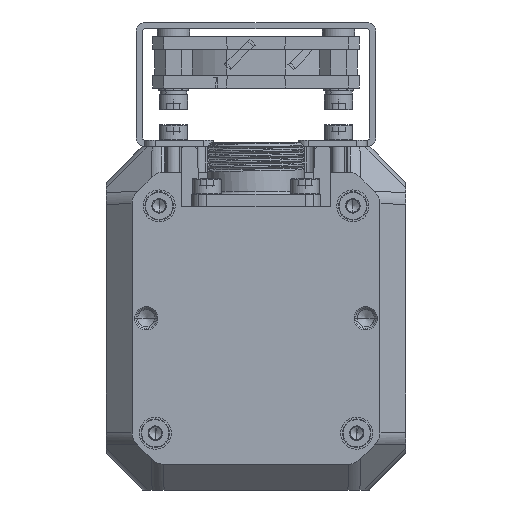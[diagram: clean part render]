
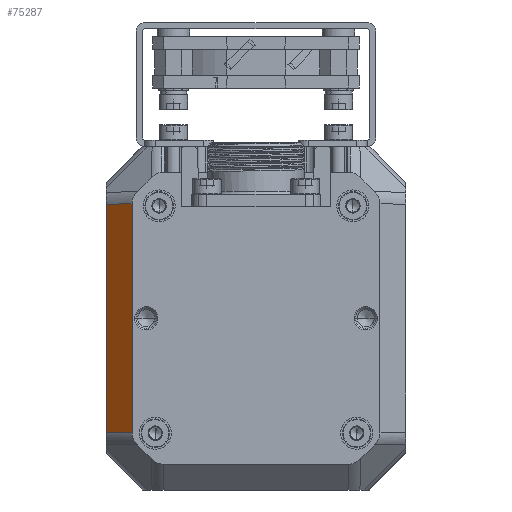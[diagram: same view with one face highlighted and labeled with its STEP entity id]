
A CAD part, front view. The second image highlights one B-rep face of the part: STEP entity #75287.
In plain terms, the highlighted planar face has unit normal (-0.707, -0.707, 0).
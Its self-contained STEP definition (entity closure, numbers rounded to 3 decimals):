
#14812=CARTESIAN_POINT('',(-24.,-335.,-55.435));
#14820=DIRECTION('',(0.707,-0.707,-0.02));
#14821=VECTOR('',#14820,7.072);
#14822=CARTESIAN_POINT('',(-29.,-330.,-55.297));
#14823=LINE('',#14822,#14821);
#14824=DIRECTION('',(0.,0.,-1.));
#14825=VECTOR('',#14824,44.094);
#14826=CARTESIAN_POINT('',(-29.,-330.,-11.203));
#14827=LINE('',#14826,#14825);
#14828=DIRECTION('',(-0.707,0.707,-0.02));
#14829=VECTOR('',#14828,7.072);
#14830=CARTESIAN_POINT('',(-24.,-335.,-11.065));
#14831=LINE('',#14830,#14829);
#14832=DIRECTION('',(0.,0.,1.));
#14833=VECTOR('',#14832,44.371);
#14834=CARTESIAN_POINT('',(-24.,-335.,-55.435));
#14835=LINE('',#14834,#14833);
#14846=CARTESIAN_POINT('',(-29.,-330.,-11.203));
#42177=VERTEX_POINT('',#14812);
#42178=CARTESIAN_POINT('',(-24.,-335.,-11.065));
#42179=VERTEX_POINT('',#42178);
#42389=VERTEX_POINT('',#14846);
#42390=CARTESIAN_POINT('',(-29.,-330.,-55.297));
#42391=VERTEX_POINT('',#42390);
#75274=CARTESIAN_POINT('',(-26.5,-332.5,-33.25));
#75275=DIRECTION('',(-0.707,-0.707,0.));
#75276=DIRECTION('',(-0.707,0.707,0.));
#75277=AXIS2_PLACEMENT_3D('',#75274,#75275,#75276);
#75278=PLANE('',#75277);
#75279=ORIENTED_EDGE('',*,*,#75258,.F.);
#75280=ORIENTED_EDGE('',*,*,#54522,.F.);
#75282=ORIENTED_EDGE('',*,*,#75281,.F.);
#75284=ORIENTED_EDGE('',*,*,#75283,.F.);
#75285=EDGE_LOOP('',(#75279,#75280,#75282,#75284));
#75286=FACE_OUTER_BOUND('',#75285,.F.);
#54522=EDGE_CURVE('',#42389,#42391,#14827,.T.);
#75258=EDGE_CURVE('',#42391,#42177,#14823,.T.);
#75281=EDGE_CURVE('',#42179,#42389,#14831,.T.);
#75283=EDGE_CURVE('',#42177,#42179,#14835,.T.);
#75287=ADVANCED_FACE('',(#75286),#75278,.T.);
